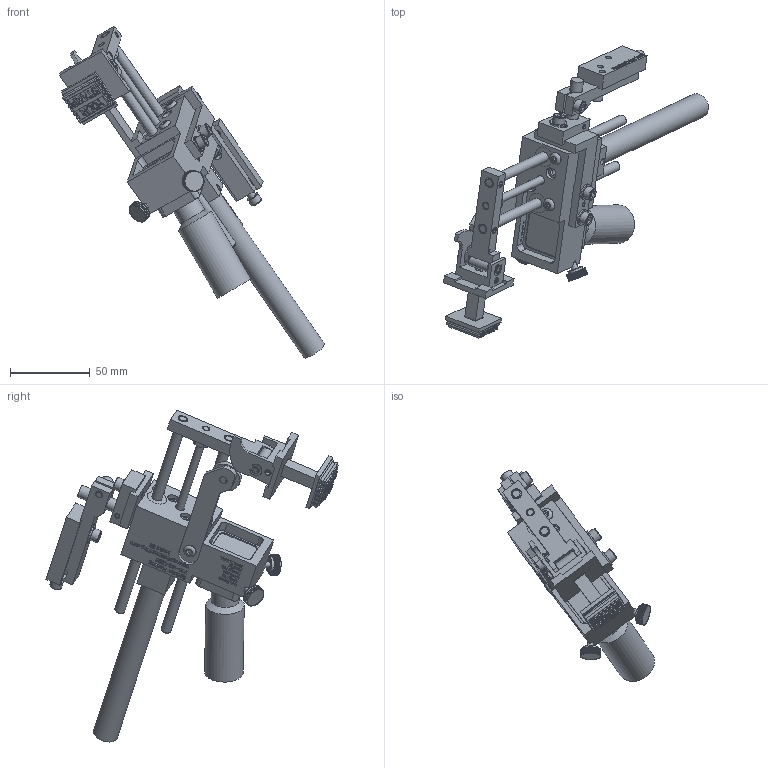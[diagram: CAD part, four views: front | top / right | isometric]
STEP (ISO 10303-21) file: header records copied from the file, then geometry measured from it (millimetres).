
FILE_DESCRIPTION((''),'2;1');
FILE_NAME('C:\Documents and Settings\Ron\My Documents\Inventor\Sprinter Drawing\Machines in Inventor\Model 88\Type\Ext Hd 1in\Brkt\90\Model 88 EH1 90 deg w brkt mod 2012.stp','2012-03-08T09:34:48',('Ron'),(''),'Autodesk Inventor 2011','Autodesk Inventor 2011','');
FILE_SCHEMA(('AUTOMOTIVE_DESIGN { 1 0 10303 214 1 1 1 1 }'));
Length unit declared in the file: inch
Products named in the file (45): Model 88 EH1  90 deg w brkt mod 2012; 88 Rod Carrier 90 deg EH1; 88 Rod Carrier; Type A - Hexagon Socket Set Screw - Cup Point - Inch 8-32 UNC x 0.32; 66 PIVOT SHAFT; 66 PIVOT SHAFT LOCKING RING; 23 66 invert block; AS 1112 (4)  - Metric M6; 66 Spring; 19 Rod Carrier Set Screws; 88 EH1 Marking head assy; Model 66, EH1 std .25 x 6; Hexagon Socket Set Screw - Flat Point - Inch 8-32 UNC x 0.32; 88 Frame Body Assy Ext w Brkt; 88 Frame Body; 66 Linear Bearing; Hexagon Socket Button Head Cap Screw - Inch 8 - 32 x 1/4; Hexagon Socket Head Cap Screw - Inch No. 8 - 32 UNC - 1 1/2; 10 Ink Resevior Lock Screw; INK RESERVOIR ASSY; 88 RESERVOIR; 88 Ink Pad; 66 INK BOTTLE; 88 EH1 Wheel Bracket ASSY ( TRIAL ONLY); 88 EH1  Wheel Bracket Arm(TRIAL ONLY); 44 Wheel Retainer; 44 Cam Wheel; Hexagon Socket Set Screw - Flat Point - Inch 4-48 UNF x 0.19; 8-32x0.25 Hexagon Socket Button Head Cap Screw ANSI/ASME B18.3; Model 88 RPB; rpb4; rpb3; rpb-1; rpb2; No. 10-24x0.88 Hexagon socket head cap screw ANSI/ASME B18.3; Type B - Plain Washer (Inch) No. 10 - narrow - Type B; 66 Machine Mounting Pivot Bracket; Pin - Hardened Ground Machine Dowel (Inch) 1/8 x 3/4; Pin - Hardened Ground Machine Dowel (Inch) 1/8 x 3/8; EH1 90 deg std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
Assembly tree (59 placements, depth 4):
  Model 88 EH1  90 deg w brkt mod 2012
    88 Rod Carrier 90 deg EH1
      88 Rod Carrier
      Type A - Hexagon Socket Set Screw - Cup Point - Inch 8-32 UNC x 0.32
      66 PIVOT SHAFT
      66 PIVOT SHAFT LOCKING RING  x2
      23 66 invert block
      AS 1112 (4)  - Metric M6
      66 Spring
      19 Rod Carrier Set Screws  x2
      Model 66, EH1 std .25 x 6  x2
      Hexagon Socket Set Screw - Flat Point - Inch 8-32 UNC x 0.32
    88 Frame Body Assy Ext w Brkt
      88 Frame Body
      66 Linear Bearing  x2
      Hexagon Socket Button Head Cap Screw - Inch 8 - 32 x 1/4  x4
      Hexagon Socket Head Cap Screw - Inch No. 8 - 32 UNC - 1 1/2  x2
      10 Ink Resevior Lock Screw  x2
      INK RESERVOIR ASSY
        88 RESERVOIR
        88 Ink Pad
        66 INK BOTTLE
      88 EH1 Wheel Bracket ASSY ( TRIAL ONLY)
        88 EH1  Wheel Bracket Arm(TRIAL ONLY)
        44 Wheel Retainer
        44 Cam Wheel
        Hexagon Socket Set Screw - Flat Point - Inch 4-48 UNF x 0.19
      8-32x0.25 Hexagon Socket Button Head Cap Screw ANSI/ASME B18.3
      Model 88 RPB
        rpb4
        rpb3
        rpb-1
        rpb2
        No. 10-24x0.88 Hexagon socket head cap screw ANSI/ASME B18.3  x5
        Type B - Plain Washer (Inch) No. 10 - narrow - Type B  x4
        66 Machine Mounting Pivot Bracket
        Pin - Hardened Ground Machine Dowel (Inch) 1/8 x 3/4
        Pin - Hardened Ground Machine Dowel (Inch) 1/8 x 3/8
    EH1 90 deg std
    10-32 PORTS DECAL
    88 EH1 Marking head assy
      88-EH-1 CLIP plate
      88 baselock (model sized)
      88 baselock STAMP-2
  88 EH1 Marking head assy
Bounding box: 166.3 x 183.39 x 208.34 mm (x, y, z)
Volume: 211769 mm3; surface area: 103340.8 mm2
Topology: 426 solids, 426 shells, 6419 faces, 15731 edges, 9741 vertices
Faces by surface type: plane 4467, bspline 1294, cylinder 567, cone 68, torus 23
Full cylindrical faces by diameter (mm): 1.143 x1, 2.261 x1, 2.54 x2, 2.642 x1, 2.845 x1, 3.175 x4, 3.2 x1, 3.302 x14, 3.683 x2, 3.962 x10, 4.064 x2, 4.166 x11, 4.547 x2, 4.699 x3, 4.75 x4, 4.775 x2, 4.826 x8, 4.864 x2, 4.917 x1, 5.055 x1, 5.156 x7, 5.359 x1, 5.556 x1, 6.325 x4, 6.35 x7, 6.426 x1, 6.604 x1, 6.858 x2, 7.366 x2, 7.62 x2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
Entity records: 152934 total; most frequent: CARTESIAN_POINT 45425, ORIENTED_EDGE 23922, DIRECTION 17324, EDGE_CURVE 11961, VECTOR 8552, LINE 8552, VERTEX_POINT 7681, EDGE_LOOP 5356
